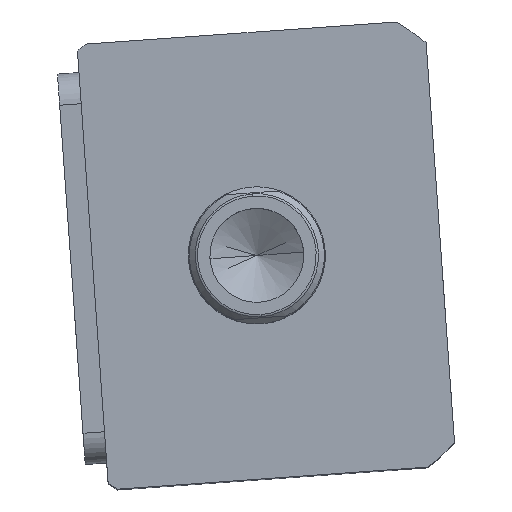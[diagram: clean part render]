
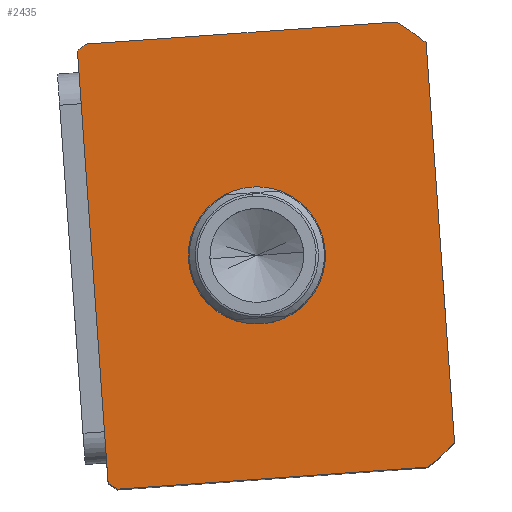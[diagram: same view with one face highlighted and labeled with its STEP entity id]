
A CAD part, top view. The second image highlights one B-rep face of the part: STEP entity #2435.
In plain terms, the highlighted planar face has unit normal (0, 0, 1) as drawn and (0, 0, -1) by its records, which use the part's own axes.
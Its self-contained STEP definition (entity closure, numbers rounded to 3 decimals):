
#14 = VERTEX_POINT ( 'NONE', #12938 ) ;
#76 = DIRECTION ( 'NONE',  ( 0., 0., 1. ) ) ;
#413 = AXIS2_PLACEMENT_3D ( 'NONE', #8119, #18307, #9575 ) ;
#683 = CIRCLE ( 'NONE', #9088, 69.5 ) ;
#812 = VERTEX_POINT ( 'NONE', #15520 ) ;
#1665 = CARTESIAN_POINT ( 'NONE',  ( 57., -37.265, 0. ) ) ;
#1778 = CARTESIAN_POINT ( 'NONE',  ( 0., 2.5, 0. ) ) ;
#2130 = VERTEX_POINT ( 'NONE', #11296 ) ;
#2191 = EDGE_CURVE ( 'NONE', #812, #17231, #7510, .T. ) ;
#2435 = ADVANCED_FACE ( 'NONE', ( #7069, #6612 ), #7363, .F. ) ;
#3250 = DIRECTION ( 'NONE',  ( 1., 0., 0. ) ) ;
#3465 = EDGE_CURVE ( 'NONE', #18780, #812, #5928, .T. ) ;
#3512 = ORIENTED_EDGE ( 'NONE', *, *, #17121, .F. ) ;
#3602 = AXIS2_PLACEMENT_3D ( 'NONE', #8762, #76, #10310 ) ;
#3787 = ORIENTED_EDGE ( 'NONE', *, *, #6456, .F. ) ;
#3817 = VERTEX_POINT ( 'NONE', #12271 ) ;
#4306 = EDGE_LOOP ( 'NONE', ( #14388, #13085, #9178, #18622, #3512, #3787, #16684, #8682 ) ) ;
#5928 = LINE ( 'NONE', #18206, #16636 ) ;
#5970 = CARTESIAN_POINT ( 'NONE',  ( 17.5, 2.5, 0. ) ) ;
#6087 = EDGE_CURVE ( 'NONE', #18562, #14, #13985, .T. ) ;
#6205 = CARTESIAN_POINT ( 'NONE',  ( 0., 2.5, 0. ) ) ;
#6456 = EDGE_CURVE ( 'NONE', #2130, #11586, #12154, .T. ) ;
#6612 = FACE_OUTER_BOUND ( 'NONE', #4306, .T. ) ;
#6623 = EDGE_CURVE ( 'NONE', #18403, #2130, #11703, .T. ) ;
#6697 = CARTESIAN_POINT ( 'NONE',  ( 0., 2.5, 0. ) ) ;
#6710 = LINE ( 'NONE', #17123, #17867 ) ;
#7069 = FACE_BOUND ( 'NONE', #9667, .T. ) ;
#7131 = DIRECTION ( 'NONE',  ( 0., 0., 1. ) ) ;
#7166 = CARTESIAN_POINT ( 'NONE',  ( -55.374, 44.5, 0. ) ) ;
#7211 = CARTESIAN_POINT ( 'NONE',  ( 0., 2.5, 0. ) ) ;
#7363 = PLANE ( 'NONE',  #3602 ) ;
#7451 = ORIENTED_EDGE ( 'NONE', *, *, #10649, .T. ) ;
#7510 = CIRCLE ( 'NONE', #14735, 69.5 ) ;
#7642 = DIRECTION ( 'NONE',  ( 1., 0., 0. ) ) ;
#7646 = VERTEX_POINT ( 'NONE', #13599 ) ;
#7859 = DIRECTION ( 'NONE',  ( 0., -1., 0. ) ) ;
#8119 = CARTESIAN_POINT ( 'NONE',  ( 0., 2.5, 0. ) ) ;
#8153 = DIRECTION ( 'NONE',  ( 1., 0., 0. ) ) ;
#8268 = VECTOR ( 'NONE', #7859, 1000. ) ;
#8618 = DIRECTION ( 'NONE',  ( -1., 0., 0. ) ) ;
#8660 = DIRECTION ( 'NONE',  ( 1., 0., 0. ) ) ;
#8663 = EDGE_CURVE ( 'NONE', #7646, #18780, #683, .T. ) ;
#8682 = ORIENTED_EDGE ( 'NONE', *, *, #11712, .F. ) ;
#8698 = ORIENTED_EDGE ( 'NONE', *, *, #6087, .T. ) ;
#8762 = CARTESIAN_POINT ( 'NONE',  ( 0., 0., 0. ) ) ;
#9012 = DIRECTION ( 'NONE',  ( 1., 0., 0. ) ) ;
#9088 = AXIS2_PLACEMENT_3D ( 'NONE', #6205, #16398, #7642 ) ;
#9178 = ORIENTED_EDGE ( 'NONE', *, *, #8663, .F. ) ;
#9475 = DIRECTION ( 'NONE',  ( 0., 1., 0. ) ) ;
#9575 = DIRECTION ( 'NONE',  ( 1., 0., 0. ) ) ;
#9598 = AXIS2_PLACEMENT_3D ( 'NONE', #7211, #17409, #8660 ) ;
#9667 = EDGE_LOOP ( 'NONE', ( #8698, #7451 ) ) ;
#10310 = DIRECTION ( 'NONE',  ( 1., 0., 0. ) ) ;
#10649 = EDGE_CURVE ( 'NONE', #14, #18562, #16525, .T. ) ;
#11296 = CARTESIAN_POINT ( 'NONE',  ( -57., 42.265, 0. ) ) ;
#11497 = VECTOR ( 'NONE', #9012, 1000. ) ;
#11586 = VERTEX_POINT ( 'NONE', #17005 ) ;
#11703 = CIRCLE ( 'NONE', #413, 69.5 ) ;
#11712 = EDGE_CURVE ( 'NONE', #17231, #18403, #6710, .T. ) ;
#11999 = DIRECTION ( 'NONE',  ( 0., 0., 1. ) ) ;
#12154 = LINE ( 'NONE', #17940, #8268 ) ;
#12271 = CARTESIAN_POINT ( 'NONE',  ( -51.198, -44.5, 0. ) ) ;
#12938 = CARTESIAN_POINT ( 'NONE',  ( -17.5, 2.5, 0. ) ) ;
#12968 = EDGE_CURVE ( 'NONE', #3817, #7646, #15830, .T. ) ;
#13085 = ORIENTED_EDGE ( 'NONE', *, *, #3465, .F. ) ;
#13599 = CARTESIAN_POINT ( 'NONE',  ( 51.198, -44.5, 0. ) ) ;
#13985 = CIRCLE ( 'NONE', #9598, 17.5 ) ;
#14388 = ORIENTED_EDGE ( 'NONE', *, *, #2191, .F. ) ;
#14735 = AXIS2_PLACEMENT_3D ( 'NONE', #15880, #7131, #17328 ) ;
#15520 = CARTESIAN_POINT ( 'NONE',  ( 57., 42.265, 0. ) ) ;
#15830 = LINE ( 'NONE', #16322, #11497 ) ;
#15880 = CARTESIAN_POINT ( 'NONE',  ( 0., 2.5, 0. ) ) ;
#16223 = AXIS2_PLACEMENT_3D ( 'NONE', #6697, #16895, #8153 ) ;
#16322 = CARTESIAN_POINT ( 'NONE',  ( -57., -44.5, 0. ) ) ;
#16398 = DIRECTION ( 'NONE',  ( 0., 0., 1. ) ) ;
#16525 = CIRCLE ( 'NONE', #16223, 17.5 ) ;
#16579 = CARTESIAN_POINT ( 'NONE',  ( 55.374, 44.5, 0. ) ) ;
#16636 = VECTOR ( 'NONE', #9475, 1000. ) ;
#16684 = ORIENTED_EDGE ( 'NONE', *, *, #6623, .F. ) ;
#16895 = DIRECTION ( 'NONE',  ( 0., 0., 1. ) ) ;
#17005 = CARTESIAN_POINT ( 'NONE',  ( -57., -37.265, 0. ) ) ;
#17121 = EDGE_CURVE ( 'NONE', #11586, #3817, #17752, .T. ) ;
#17123 = CARTESIAN_POINT ( 'NONE',  ( -57., 44.5, 0. ) ) ;
#17231 = VERTEX_POINT ( 'NONE', #16579 ) ;
#17328 = DIRECTION ( 'NONE',  ( 1., 0., 0. ) ) ;
#17409 = DIRECTION ( 'NONE',  ( 0., 0., 1. ) ) ;
#17752 = CIRCLE ( 'NONE', #18425, 69.5 ) ;
#17867 = VECTOR ( 'NONE', #8618, 1000. ) ;
#17940 = CARTESIAN_POINT ( 'NONE',  ( -57., 44.5, 0. ) ) ;
#18206 = CARTESIAN_POINT ( 'NONE',  ( 57., 44.5, 0. ) ) ;
#18307 = DIRECTION ( 'NONE',  ( 0., 0., 1. ) ) ;
#18403 = VERTEX_POINT ( 'NONE', #7166 ) ;
#18425 = AXIS2_PLACEMENT_3D ( 'NONE', #1778, #11999, #3250 ) ;
#18562 = VERTEX_POINT ( 'NONE', #5970 ) ;
#18622 = ORIENTED_EDGE ( 'NONE', *, *, #12968, .F. ) ;
#18780 = VERTEX_POINT ( 'NONE', #1665 ) ;
